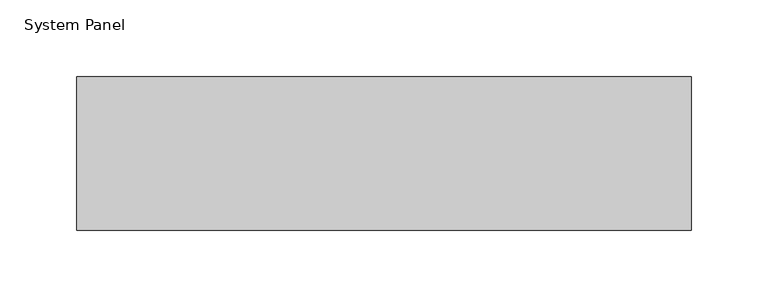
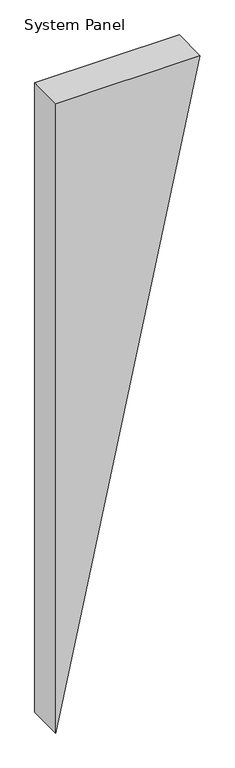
"""IFC4 building model written with IfcOpenShell, lengths in millimetres: plate geometry, System Panel : Inspire 100mm Vertical - Plain RHEA-PIR."""

from ifc_helpers import new_model, si_unit, frame, origin, place, context, project, spatial, polyline, outline, extrude, source, transform, mapped, element, save


def system_panel_e06f3d7a(model_context):
    return source(origin(), model_context, "Body", "SweptSolid", [
        extrude(outline(polyline([(1839.9852118, -200.0), (0.0, -200.0), (1839.9852118, 200.0), (1839.9852118, -200.0)])), frame((0.0, -100.0, 0.0), z_axis=(0.0, 1.0, 0.0), x_axis=(0.0, 0.0, 1.0)), (0.0, 0.0, 1.0), 100.0),
    ])


if __name__ == "__main__":
    model = new_model("IFC4")
    model_context = context("Model", 3, world=origin())
    ifc_project = project(units=[si_unit("LENGTHUNIT", "METRE", prefix="MILLI")], contexts=[model_context])
    site = spatial("IfcSite", under=ifc_project)
    building = spatial("IfcBuilding", under=site)
    placement = place(None, origin())
    system_panel_shape = system_panel_e06f3d7a(model_context)
    element("IfcPlate", 1, ObjectType="System Panel : Inspire 100mm Vertical - Plain RHEA-PIR", at=placement, inside=building, context=model_context, shape_type="MappedRepresentation", body=[
        mapped(system_panel_shape, transform((0.0, 0.0, 0.0), x_axis=(1.0, 0.0, 0.0), y_axis=(0.0, 1.0, 0.0), z_axis=(0.0, 0.0, 1.0))),
    ])
    save(model, "model.ifc")
